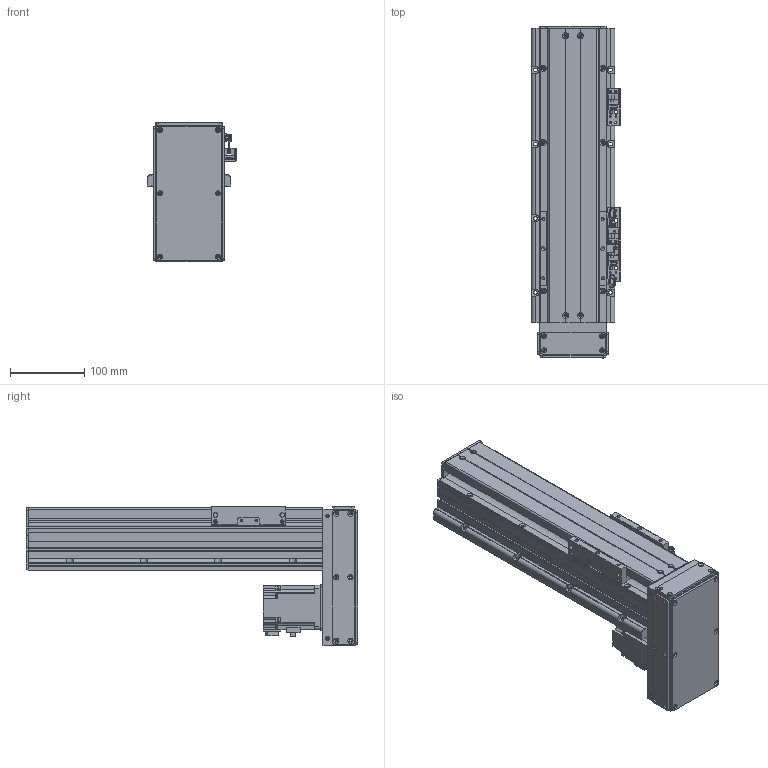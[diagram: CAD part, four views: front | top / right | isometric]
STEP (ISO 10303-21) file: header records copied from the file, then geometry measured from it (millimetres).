
FILE_DESCRIPTION(/* description */ ('MANUFACTURE','CAx-IF Rec.Pracs.---Representation and Presentation of Product Manufacturing Information (PMI)---4.0---2014-10-13'),/* implementation_level */ '2;1');
FILE_NAME(/* name */ '\\192.168.0.160\disk1\HAN SHIN Master\B-설계부문\C-표준\B-2024년\BC02-표준도면\+로봇 개선표준도면\표준 승인도 폴더 - 재작업\3D\HS Type\HS90 - 1RAIL\D - Type\HS90-D20-N1B-0200-R10.stp',/* time_stamp */ '2024-08-26T15:02:24+09:00',/* author */ ('user'),/* organization */ (''),/* preprocessor_version */ 'ST-DEVELOPER v18.1',/* originating_system */ 'Autodesk Inventor 2022',/* authorisation */ 'LIP');
FILE_SCHEMA (('AP242_MANAGED_MODEL_BASED_3D_ENGINEERING_MIM_LF { 1 0 10303 442 1 1 4 }'));
Length unit declared in the file: millimetre
Products named in the file (25): HS90-D20-N1B-0700-R10 (간소화); BASE; UPCOVER; SIDE COVER; HS90 SIDE COVER - 200W 1BLOCK-MIRROR; HR90 FRONT BLOCK; HR90 REAR BLOCK TENSION; S 20R_BLOCK; REAR COVER; STOPPER3; HR120 SENSOR DOG; hg-kr23_; hsr_ftht_A-M6F_grease_nipple_joint; NIPPLE CAP(신규); STOPPER104; MOTOR PLATE-200W(MITSUBISHI); LMKE1520 NUT; HS90 TABLE-SR20W; HS90-D MOTOR PLATE; HS90 D- BELT COVER; HG90DACRYLCOVER001; HG90DACRYLCOVER003; HG90DACRYLCOVER002; SENSOR BRK(EE-SX674A); EE_SX674A
Assembly tree (32 placements, depth 2):
  HS90-D20-N1B-0700-R10 (간소화)
    BASE
    UPCOVER
    SIDE COVER
    HS90 SIDE COVER - 200W 1BLOCK-MIRROR
    HR90 FRONT BLOCK
    HR90 REAR BLOCK TENSION
    S 20R_BLOCK
    REAR COVER
    STOPPER3
    HR120 SENSOR DOG
    SENSOR BRK(EE-SX674A)  x3
    EE_SX674A  x3
    hsr_ftht_A-M6F_grease_nipple_joint  x2
    NIPPLE CAP(신규)  x2
    hg-kr23_
    STOPPER104  x2
    MOTOR PLATE-200W(MITSUBISHI)
    LMKE1520 NUT
    HS90 TABLE-SR20W
    HS90-D MOTOR PLATE
    HS90 D- BELT COVER
    HG90DACRYLCOVER001
    HG90DACRYLCOVER002  x2
    HG90DACRYLCOVER003
Bounding box: 120 x 447 x 187.5 mm (x, y, z)
Volume: 1891605.7 mm3; surface area: 675341.1 mm2
Topology: 32 solids, 32 shells, 1872 faces, 5110 edges, 3349 vertices
Faces by surface type: plane 979, cylinder 687, cone 170, sphere 16, torus 12, bspline 8
Full cylindrical faces by diameter (mm): 2.459 x50, 3 x4, 3.242 x50, 3.4 x22, 3.5 x6, 4.134 x44, 4.5 x37, 4.917 x13, 5 x26, 5.5 x13, 5.6 x10, 5.7 x4, 5.8 x4, 5.9 x8, 6 x12, 6.2 x4, 6.5 x4, 8 x5, 9.5 x13, 14 x1, 15 x2, 17 x1, 20 x1, 25 x2, 28 x1, 32 x2, 33.7 x1, 34 x1, 50 x2
Entity records: 58937 total; most frequent: CARTESIAN_POINT 11912, DIRECTION 9427, ORIENTED_EDGE 8538, EDGE_CURVE 4269, AXIS2_PLACEMENT_3D 3404, VERTEX_POINT 2844, LINE 2619, VECTOR 2619
